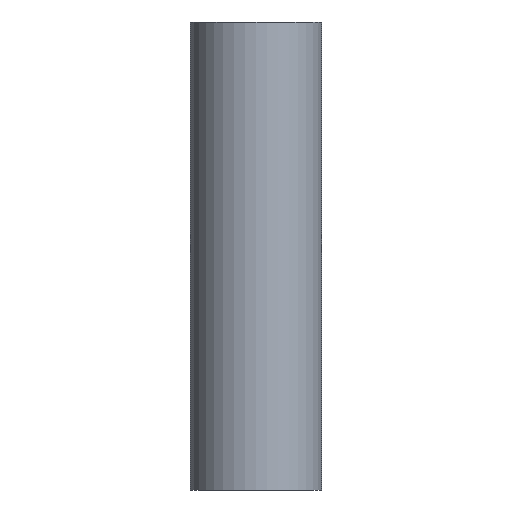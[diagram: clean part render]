
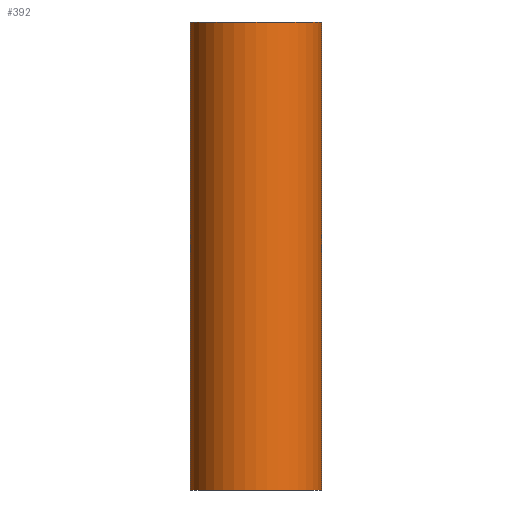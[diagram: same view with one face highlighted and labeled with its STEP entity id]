
A CAD part, front view. The second image highlights one B-rep face of the part: STEP entity #392.
In plain terms, the highlighted cylindrical face has radius 14 mm (diameter 28 mm), a partial arc.
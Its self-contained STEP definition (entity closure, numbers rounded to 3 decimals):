
#32 = CIRCLE ( 'NONE', #801, 14. ) ;
#39 = CARTESIAN_POINT ( 'NONE',  ( 14., 0., 50. ) ) ;
#46 = DIRECTION ( 'NONE',  ( 0., 0., 1. ) ) ;
#117 = ORIENTED_EDGE ( 'NONE', *, *, #1095, .T. ) ;
#142 = DIRECTION ( 'NONE',  ( 0., 0., 1. ) ) ;
#149 = DIRECTION ( 'NONE',  ( 1., 0., 0. ) ) ;
#212 = CIRCLE ( 'NONE', #992, 14. ) ;
#236 = CARTESIAN_POINT ( 'NONE',  ( -14., 0., 50. ) ) ;
#345 = CARTESIAN_POINT ( 'NONE',  ( -14., 0., -50. ) ) ;
#377 = VERTEX_POINT ( 'NONE', #345 ) ;
#392 = ADVANCED_FACE ( 'NONE', ( #797 ), #1152, .T. ) ;
#455 = DIRECTION ( 'NONE',  ( 0., 0., -1. ) ) ;
#464 = DIRECTION ( 'NONE',  ( 0., 0., -1. ) ) ;
#465 = DIRECTION ( 'NONE',  ( 1., 0., 0. ) ) ;
#483 = LINE ( 'NONE', #236, #1293 ) ;
#516 = LINE ( 'NONE', #39, #1115 ) ;
#552 = VERTEX_POINT ( 'NONE', #893 ) ;
#573 = DIRECTION ( 'NONE',  ( -1., 0., 0. ) ) ;
#608 = EDGE_CURVE ( 'NONE', #377, #552, #212, .T. ) ;
#659 = CARTESIAN_POINT ( 'NONE',  ( 0., 0., 50. ) ) ;
#694 = CARTESIAN_POINT ( 'NONE',  ( 14., 0., 50. ) ) ;
#734 = EDGE_CURVE ( 'NONE', #994, #552, #516, .T. ) ;
#738 = EDGE_CURVE ( 'NONE', #746, #994, #32, .T. ) ;
#746 = VERTEX_POINT ( 'NONE', #1247 ) ;
#747 = DIRECTION ( 'NONE',  ( 0., 0., -1. ) ) ;
#784 = AXIS2_PLACEMENT_3D ( 'NONE', #870, #464, #573 ) ;
#797 = FACE_OUTER_BOUND ( 'NONE', #1017, .T. ) ;
#801 = AXIS2_PLACEMENT_3D ( 'NONE', #659, #46, #149 ) ;
#842 = ORIENTED_EDGE ( 'NONE', *, *, #738, .F. ) ;
#848 = ORIENTED_EDGE ( 'NONE', *, *, #734, .F. ) ;
#866 = CARTESIAN_POINT ( 'NONE',  ( 0., 0., -50. ) ) ;
#870 = CARTESIAN_POINT ( 'NONE',  ( 0., 0., 50. ) ) ;
#893 = CARTESIAN_POINT ( 'NONE',  ( 14., 0., -50. ) ) ;
#992 = AXIS2_PLACEMENT_3D ( 'NONE', #866, #142, #465 ) ;
#994 = VERTEX_POINT ( 'NONE', #694 ) ;
#1017 = EDGE_LOOP ( 'NONE', ( #848, #842, #117, #1298 ) ) ;
#1095 = EDGE_CURVE ( 'NONE', #746, #377, #483, .T. ) ;
#1115 = VECTOR ( 'NONE', #455, 1000. ) ;
#1152 = CYLINDRICAL_SURFACE ( 'NONE', #784, 14. ) ;
#1247 = CARTESIAN_POINT ( 'NONE',  ( -14., 0., 50. ) ) ;
#1293 = VECTOR ( 'NONE', #747, 1000. ) ;
#1298 = ORIENTED_EDGE ( 'NONE', *, *, #608, .T. ) ;
